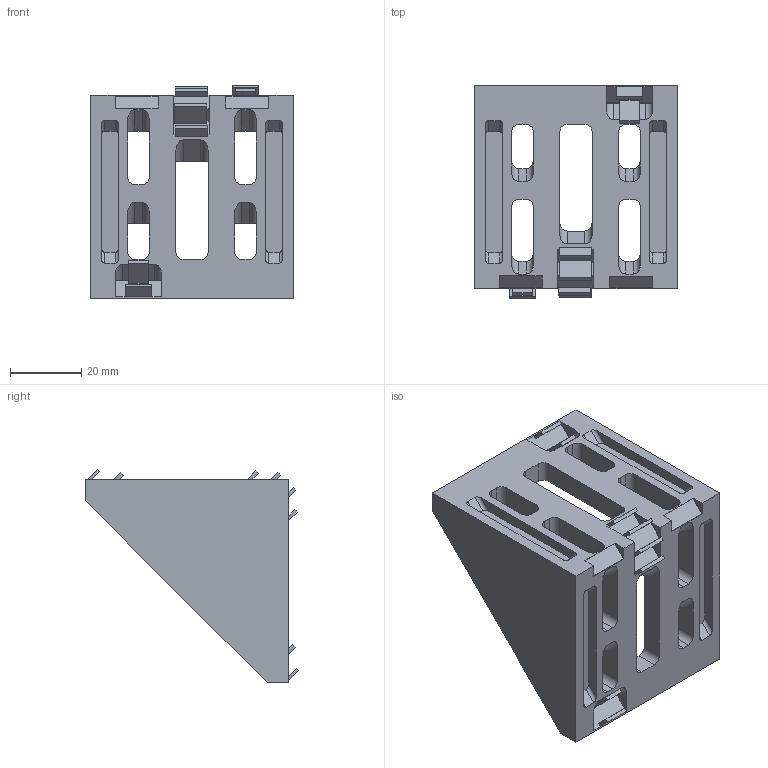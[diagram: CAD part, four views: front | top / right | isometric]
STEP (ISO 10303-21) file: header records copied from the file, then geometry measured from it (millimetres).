
FILE_DESCRIPTION (( 'STEP AP203' ), '1' );
FILE_NAME ('1067.STEP', '2016-03-27T14:35:34', ( '' ), ( '' ), 'SwSTEP 2.0', 'SolidWorks 2014', '' );
FILE_SCHEMA (( 'CONFIG_CONTROL_DESIGN' ));
Length unit declared in the file: millimetre
Products named in the file (1): 1067
Bounding box: 57 x 59.83 x 59.83 mm (x, y, z)
Volume: 39242.1 mm3; surface area: 21336.5 mm2
Topology: 1 solids, 1 shells, 210 faces, 590 edges, 388 vertices
Faces by surface type: plane 150, cylinder 60
Entity records: 6763 total; most frequent: CARTESIAN_POINT 1429, ORIENTED_EDGE 1180, DIRECTION 972, EDGE_CURVE 590, LINE 470, VECTOR 470, VERTEX_POINT 388, AXIS2_PLACEMENT_3D 251
